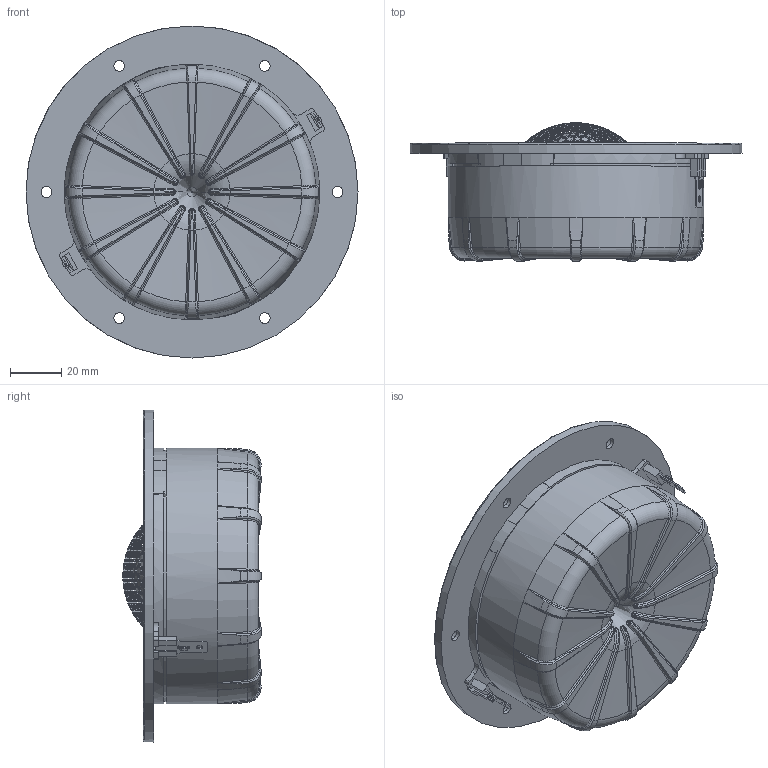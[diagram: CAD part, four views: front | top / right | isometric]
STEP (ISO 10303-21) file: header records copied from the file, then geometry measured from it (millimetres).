
FILE_DESCRIPTION(/* description */ (''),/* implementation_level */ '2;1');
FILE_NAME(/* name */ 'Epique EC30-4.step',/* time_stamp */ '2026-01-20T17:17:46-05:00',/* author */ (''),/* organization */ (''),/* preprocessor_version */ 'ST-DEVELOPER v20.1',/* originating_system */ 'Autodesk Translation Framework v14.21.0.0',/* authorisation */ '');
FILE_SCHEMA (('AUTOMOTIVE_DESIGN { 1 0 10303 214 3 1 1 }'));
Length unit declared in the file: millimetre
Products named in the file (3): DYATON_28MM_CREAMIC_DOME_241008_ASM; DIPHRAGM_081221_V4_1_01; M4-T20_1_1_01
Assembly tree (7 placements, depth 2):
  DYATON_28MM_CREAMIC_DOME_241008_ASM
    DIPHRAGM_081221_V4_1_01
    M4-T20_1_1_01  x6
Bounding box: 130 x 54.14 x 130 mm (x, y, z)
Volume: 296218.3 mm3; surface area: 69811.3 mm2
Topology: 8 solids, 22 shells, 2770 faces, 7642 edges, 4903 vertices
Faces by surface type: plane 1472, bspline 489, cylinder 481, cone 188, torus 133, sphere 7
Full cylindrical faces by diameter (mm): 3.5 x2, 4 x48, 4.2 x12, 7 x7, 7.5 x12, 8 x4, 35.1 x1, 35.5 x1, 39 x1, 40 x1, 41 x1, 100 x1, 130 x1
Entity records: 106884 total; most frequent: CARTESIAN_POINT 47659, ORIENTED_EDGE 12904, DIRECTION 12372, EDGE_CURVE 6452, AXIS2_PLACEMENT_3D 5123, VERTEX_POINT 4218, CIRCLE 2972, EDGE_LOOP 2614
